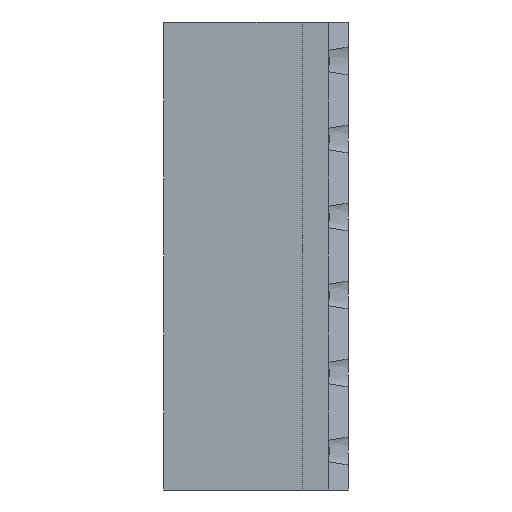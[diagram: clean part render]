
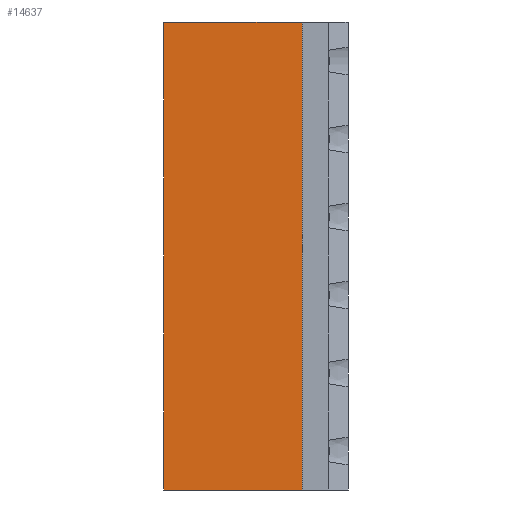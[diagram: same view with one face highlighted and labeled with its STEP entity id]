
A CAD part, left-side view. The second image highlights one B-rep face of the part: STEP entity #14637.
In plain terms, the highlighted planar face has unit normal (-1, 0, 0).
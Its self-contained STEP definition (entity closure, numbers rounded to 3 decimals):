
#328 = LINE ( 'NONE', #7425, #12476 ) ;
#770 = LINE ( 'NONE', #10205, #7923 ) ;
#778 = VECTOR ( 'NONE', #3251, 1000. ) ;
#909 = CARTESIAN_POINT ( 'NONE',  ( -3.9, 3., 30.48 ) ) ;
#1220 = VERTEX_POINT ( 'NONE', #10810 ) ;
#2501 = VERTEX_POINT ( 'NONE', #5281 ) ;
#2664 = DIRECTION ( 'NONE',  ( 0., 0., 1. ) ) ;
#2713 = DIRECTION ( 'NONE',  ( 0., -1., 0. ) ) ;
#3011 = AXIS2_PLACEMENT_3D ( 'NONE', #10580, #11672, #8012 ) ;
#3251 = DIRECTION ( 'NONE',  ( 0., -1., 0. ) ) ;
#3387 = EDGE_CURVE ( 'NONE', #3998, #2501, #13927, .T. ) ;
#3875 = CARTESIAN_POINT ( 'NONE',  ( -3.9, 12., 30.48 ) ) ;
#3998 = VERTEX_POINT ( 'NONE', #6565 ) ;
#4001 = EDGE_CURVE ( 'NONE', #3998, #1220, #328, .T. ) ;
#4131 = VECTOR ( 'NONE', #2713, 1000. ) ;
#4500 = CARTESIAN_POINT ( 'NONE',  ( -3.9, 12., 0. ) ) ;
#5281 = CARTESIAN_POINT ( 'NONE',  ( -3.9, 3., 0. ) ) ;
#5317 = ORIENTED_EDGE ( 'NONE', *, *, #4001, .F. ) ;
#5664 = FACE_OUTER_BOUND ( 'NONE', #7861, .T. ) ;
#6565 = CARTESIAN_POINT ( 'NONE',  ( -3.9, 12., 0. ) ) ;
#7425 = CARTESIAN_POINT ( 'NONE',  ( -3.9, 12., 0. ) ) ;
#7464 = EDGE_CURVE ( 'NONE', #1220, #14621, #9801, .T. ) ;
#7861 = EDGE_LOOP ( 'NONE', ( #13088, #9584, #8050, #5317 ) ) ;
#7923 = VECTOR ( 'NONE', #14955, 1000. ) ;
#8012 = DIRECTION ( 'NONE',  ( 0., 0., 1. ) ) ;
#8050 = ORIENTED_EDGE ( 'NONE', *, *, #7464, .F. ) ;
#9584 = ORIENTED_EDGE ( 'NONE', *, *, #11805, .F. ) ;
#9801 = LINE ( 'NONE', #3875, #4131 ) ;
#10205 = CARTESIAN_POINT ( 'NONE',  ( -3.9, 3., 30.48 ) ) ;
#10580 = CARTESIAN_POINT ( 'NONE',  ( -3.9, 12., 0. ) ) ;
#10810 = CARTESIAN_POINT ( 'NONE',  ( -3.9, 12., 30.48 ) ) ;
#11672 = DIRECTION ( 'NONE',  ( -1., 0., 0. ) ) ;
#11805 = EDGE_CURVE ( 'NONE', #14621, #2501, #770, .T. ) ;
#12476 = VECTOR ( 'NONE', #2664, 1000. ) ;
#13088 = ORIENTED_EDGE ( 'NONE', *, *, #3387, .T. ) ;
#13927 = LINE ( 'NONE', #4500, #778 ) ;
#13930 = PLANE ( 'NONE',  #3011 ) ;
#14621 = VERTEX_POINT ( 'NONE', #909 ) ;
#14637 = ADVANCED_FACE ( 'NONE', ( #5664 ), #13930, .T. ) ;
#14955 = DIRECTION ( 'NONE',  ( 0., 0., -1. ) ) ;
